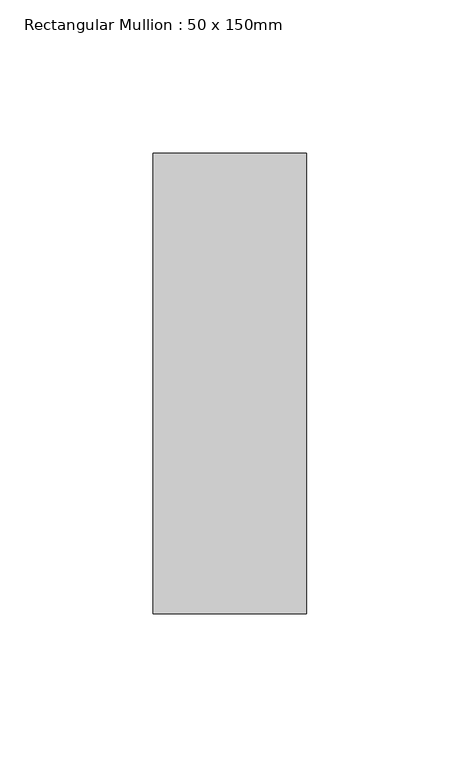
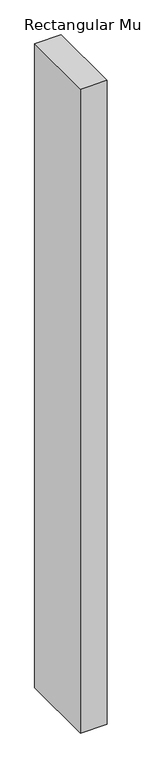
"""IFC4 building model written with IfcOpenShell, lengths in millimetres: member geometry, Rectangular Mullion : 50 x 150mm."""

from ifc_helpers import new_model, si_unit, frame, origin, place, context, project, spatial, polyline, outline, extrude, source, transform, mapped, element, save


def rectangular_mullion_50_x_150mm_a5886fcf(model_context):
    return source(origin(), model_context, "Body", "SweptSolid", [
        extrude(outline(polyline([(25.0, 75.0), (25.0, -75.0), (-25.0, -75.0), (-25.0, 75.0), (25.0, 75.0)])), frame((0.0, 0.0, -1286.6666667), z_axis=(0.0, 0.0, 1.0), x_axis=(1.0, 0.0, 0.0)), (0.0, 0.0, 1.0), 1286.6666667),
    ])


if __name__ == "__main__":
    model = new_model("IFC4")
    model_context = context("Model", 3, world=origin())
    ifc_project = project(units=[si_unit("LENGTHUNIT", "METRE", prefix="MILLI")], contexts=[model_context])
    site = spatial("IfcSite", under=ifc_project)
    building = spatial("IfcBuilding", under=site)
    placement = place(None, origin())
    rectangular_mullion_50_x_150mm_shape = rectangular_mullion_50_x_150mm_a5886fcf(model_context)
    element("IfcMember", 1, ObjectType="Rectangular Mullion : 50 x 150mm", at=placement, inside=building, context=model_context, shape_type="MappedRepresentation", body=[
        mapped(rectangular_mullion_50_x_150mm_shape, transform((0.0, 0.0, 0.0), x_axis=(1.0, 0.0, 0.0), y_axis=(0.0, 1.0, 0.0), z_axis=(0.0, 0.0, 1.0))),
    ])
    save(model, "model.ifc")
